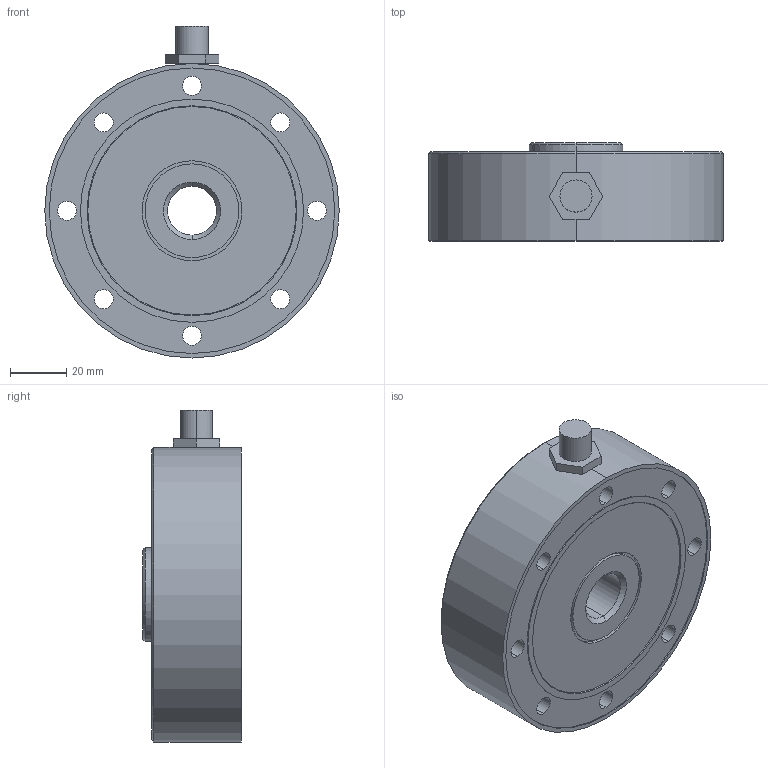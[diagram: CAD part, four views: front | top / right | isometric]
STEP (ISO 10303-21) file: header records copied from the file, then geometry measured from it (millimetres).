
FILE_DESCRIPTION (( 'STEP AP203' ), '1' );
FILE_NAME ('FINAL ASBY SS1385-20K.STEP', '2022-12-13T14:07:08', ( '' ), ( '' ), 'SwSTEP 2.0', 'SolidWorks 2008', '' );
FILE_SCHEMA (( 'CONFIG_CONTROL_DESIGN' ));
Length unit declared in the file: inch
Products named in the file (1): FINAL ASBY SS1385-20K
Bounding box: 104.78 x 34.92 x 118.11 mm (x, y, z)
Volume: 255334.4 mm3; surface area: 37516.4 mm2
Topology: 2 solids, 2 shells, 98 faces, 214 edges, 140 vertices
Faces by surface type: cylinder 60, plane 30, cone 8
Entity records: 2855 total; most frequent: DIRECTION 540, CARTESIAN_POINT 453, ORIENTED_EDGE 428, AXIS2_PLACEMENT_3D 227, EDGE_CURVE 214, VERTEX_POINT 140, EDGE_LOOP 136, CIRCLE 128
